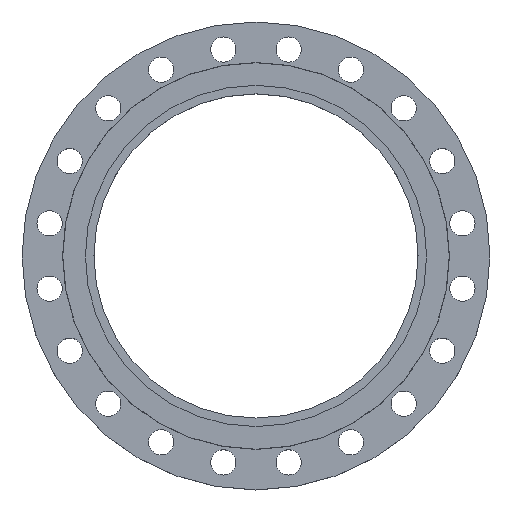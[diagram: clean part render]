
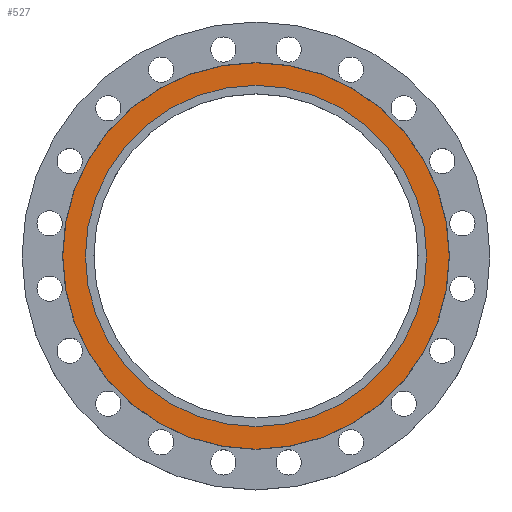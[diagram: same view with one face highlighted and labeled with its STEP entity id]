
A CAD part, top view. The second image highlights one B-rep face of the part: STEP entity #527.
In plain terms, the highlighted planar face has unit normal (0, 0, 1).
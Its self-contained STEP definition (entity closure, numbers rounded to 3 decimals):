
#4 = CARTESIAN_POINT ( 'NONE',  ( 0., 0., 0. ) ) ;
#58 = DIRECTION ( 'NONE',  ( 0., 0., -1. ) ) ;
#90 = CARTESIAN_POINT ( 'NONE',  ( 324.5, 0., 0. ) ) ;
#159 = CIRCLE ( 'NONE', #161, 324.5 ) ;
#161 = AXIS2_PLACEMENT_3D ( 'NONE', #4, #58, #1364 ) ;
#340 = DIRECTION ( 'NONE',  ( -1., 0., 0. ) ) ;
#343 = DIRECTION ( 'NONE',  ( 0., 0., -1. ) ) ;
#344 = CARTESIAN_POINT ( 'NONE',  ( 0., 0., 0. ) ) ;
#386 = CARTESIAN_POINT ( 'NONE',  ( -324.5, 0., 0. ) ) ;
#387 = CARTESIAN_POINT ( 'NONE',  ( 367.5, 0., 0. ) ) ;
#424 = CARTESIAN_POINT ( 'NONE',  ( -367.5, 0., 0. ) ) ;
#527 = ADVANCED_FACE ( 'NONE', ( #912, #909 ), #908, .T. ) ;
#606 = EDGE_CURVE ( 'NONE', #1325, #1395, #1456, .T. ) ;
#753 = DIRECTION ( 'NONE',  ( -1., 0., 0. ) ) ;
#754 = DIRECTION ( 'NONE',  ( 0., 0., -1. ) ) ;
#755 = CARTESIAN_POINT ( 'NONE',  ( 0., 0., 0. ) ) ;
#760 = EDGE_CURVE ( 'NONE', #1830, #1399, #1745, .T. ) ;
#865 = DIRECTION ( 'NONE',  ( -1., 0., 0. ) ) ;
#868 = DIRECTION ( 'NONE',  ( 0., 0., -1. ) ) ;
#869 = CARTESIAN_POINT ( 'NONE',  ( 0., 0., 0. ) ) ;
#904 = DIRECTION ( 'NONE',  ( 1., 0., 0. ) ) ;
#905 = DIRECTION ( 'NONE',  ( 0., 0., 1. ) ) ;
#907 = CARTESIAN_POINT ( 'NONE',  ( 0., 0., 0. ) ) ;
#908 = PLANE ( 'NONE',  #1290 ) ;
#909 = FACE_BOUND ( 'NONE', #1534, .T. ) ;
#912 = FACE_OUTER_BOUND ( 'NONE', #1764, .T. ) ;
#1071 = CIRCLE ( 'NONE', #1074, 367.5 ) ;
#1074 = AXIS2_PLACEMENT_3D ( 'NONE', #344, #343, #340 ) ;
#1290 = AXIS2_PLACEMENT_3D ( 'NONE', #907, #905, #904 ) ;
#1325 = VERTEX_POINT ( 'NONE', #424 ) ;
#1364 = DIRECTION ( 'NONE',  ( -1., 0., 0. ) ) ;
#1395 = VERTEX_POINT ( 'NONE', #387 ) ;
#1399 = VERTEX_POINT ( 'NONE', #386 ) ;
#1456 = CIRCLE ( 'NONE', #1471, 367.5 ) ;
#1471 = AXIS2_PLACEMENT_3D ( 'NONE', #869, #868, #865 ) ;
#1496 = EDGE_CURVE ( 'NONE', #1395, #1325, #1071, .T. ) ;
#1534 = EDGE_LOOP ( 'NONE', ( #1902, #1900 ) ) ;
#1745 = CIRCLE ( 'NONE', #1767, 324.5 ) ;
#1764 = EDGE_LOOP ( 'NONE', ( #1904, #1903 ) ) ;
#1767 = AXIS2_PLACEMENT_3D ( 'NONE', #755, #754, #753 ) ;
#1830 = VERTEX_POINT ( 'NONE', #90 ) ;
#1900 = ORIENTED_EDGE ( 'NONE', *, *, #760, .T. ) ;
#1902 = ORIENTED_EDGE ( 'NONE', *, *, #1932, .T. ) ;
#1903 = ORIENTED_EDGE ( 'NONE', *, *, #1496, .F. ) ;
#1904 = ORIENTED_EDGE ( 'NONE', *, *, #606, .F. ) ;
#1932 = EDGE_CURVE ( 'NONE', #1399, #1830, #159, .T. ) ;
